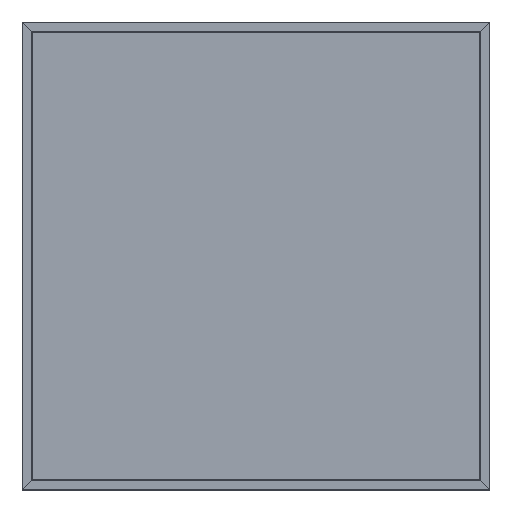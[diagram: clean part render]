
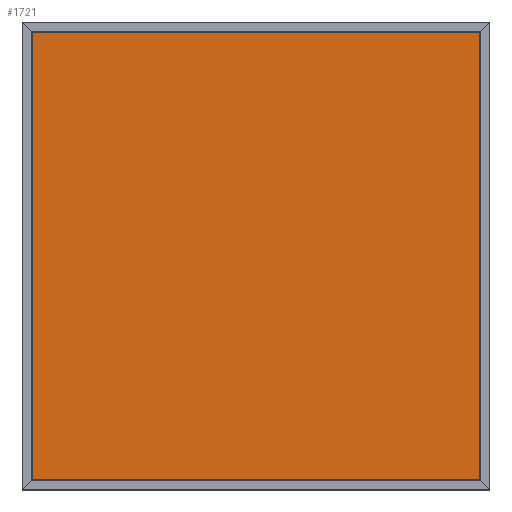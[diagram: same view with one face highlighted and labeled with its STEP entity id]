
A CAD part, top view. The second image highlights one B-rep face of the part: STEP entity #1721.
In plain terms, the highlighted planar face has unit normal (0, 0, 1).
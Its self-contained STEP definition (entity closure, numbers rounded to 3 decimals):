
#80=FACE_OUTER_BOUND('',#187,.T.);
#187=EDGE_LOOP('',(#1207,#1208,#1209,#1210));
#331=LINE('',#2527,#549);
#334=LINE('',#2532,#552);
#336=LINE('',#2536,#554);
#338=LINE('',#2539,#556);
#549=VECTOR('',#2094,10.);
#552=VECTOR('',#2099,10.);
#554=VECTOR('',#2103,10.);
#556=VECTOR('',#2107,10.);
#724=VERTEX_POINT('',#2525);
#725=VERTEX_POINT('',#2526);
#726=VERTEX_POINT('',#2531);
#727=VERTEX_POINT('',#2535);
#890=EDGE_CURVE('',#724,#725,#331,.T.);
#893=EDGE_CURVE('',#724,#726,#334,.T.);
#895=EDGE_CURVE('',#727,#725,#336,.T.);
#897=EDGE_CURVE('',#726,#727,#338,.T.);
#1207=ORIENTED_EDGE('',*,*,#897,.T.);
#1208=ORIENTED_EDGE('',*,*,#895,.T.);
#1209=ORIENTED_EDGE('',*,*,#890,.F.);
#1210=ORIENTED_EDGE('',*,*,#893,.T.);
#1507=PLANE('',#1854);
#1721=ADVANCED_FACE('',(#80),#1507,.T.);
#1854=AXIS2_PLACEMENT_3D('',#2540,#2108,#2109);
#2094=DIRECTION('',(0.,1.,0.));
#2099=DIRECTION('',(1.,0.,0.));
#2103=DIRECTION('',(-1.,0.,0.));
#2107=DIRECTION('',(0.,1.,0.));
#2108=DIRECTION('center_axis',(0.,0.,1.));
#2109=DIRECTION('ref_axis',(1.,0.,0.));
#2525=CARTESIAN_POINT('',(-239.3,-239.3,350.));
#2526=CARTESIAN_POINT('',(-239.3,239.3,350.));
#2527=CARTESIAN_POINT('',(-239.3,-239.3,350.));
#2531=CARTESIAN_POINT('',(239.3,-239.3,350.));
#2532=CARTESIAN_POINT('',(-239.3,-239.3,350.));
#2535=CARTESIAN_POINT('',(239.3,239.3,350.));
#2536=CARTESIAN_POINT('',(239.3,239.3,350.));
#2539=CARTESIAN_POINT('',(239.3,-239.3,350.));
#2540=CARTESIAN_POINT('Origin',(-239.3,-239.3,350.));
